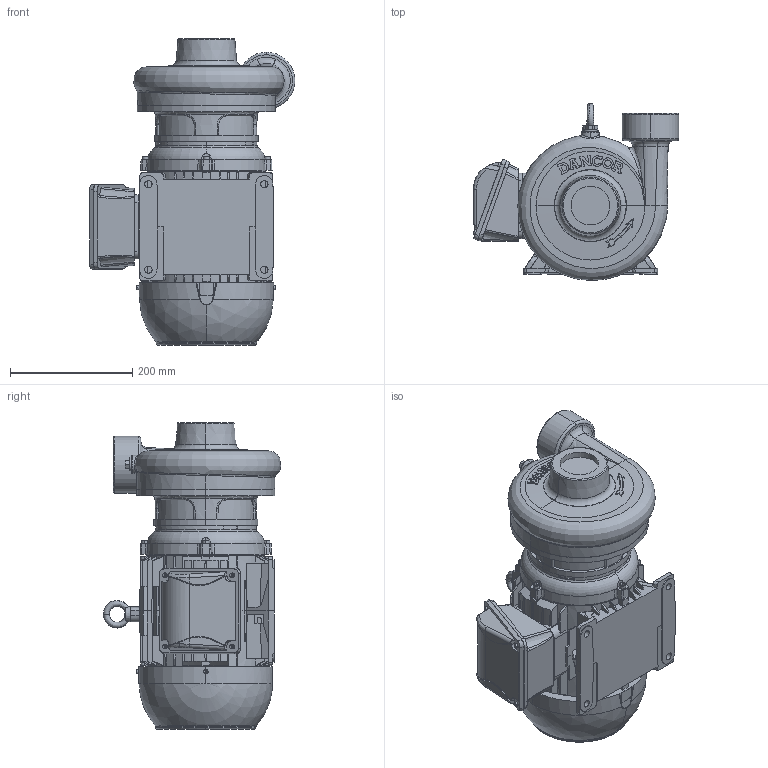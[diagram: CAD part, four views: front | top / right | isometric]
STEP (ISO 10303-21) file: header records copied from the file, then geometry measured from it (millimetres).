
FILE_DESCRIPTION (( 'STEP AP214' ), '1' );
FILE_NAME ('BOMBA 37-40 TJM 2.1-'''' 7,5CV T 4V INC IR3.STEP', '2026-06-09T12:37:03', ( '' ), ( '' ), 'SwSTEP 2.0', 'SolidWorks 2025', '' );
FILE_SCHEMA (( 'AUTOMOTIVE_DESIGN' ));
Length unit declared in the file: millimetre
Products named in the file (12): ARRUELA PLUG DE ESCORVA - 60550167; INTERMEDIARIA 51-30 JM FC 149 FF  (4 A 7,5 CV) _60433122_Interm. 27-50 - 5cv; CARCACA 51-30 2 X 1.12 FF_60389092_CARCAÇA 51-30 2½" X 2½" -; PARAFUSO SEXTAVADO UNC 3-8''''x 5-8'''' AÇO INOX AISI 304 - 60700619; ROTOR 37-40 JM  FF_60508123_60508124_60508125; ARRUELA LISA 10,00mm X 28,00mm X 4,50mm - 60550191; BOMBA 37-40 TJM 2.1-'''' 7,5CV T 4V INC IR3; SELO MECANICO  1.1-4'''' TIPO 01-21 - 60700481; BUCHA DO EIXO JM 25.40MM - 60550192; CHAVETA PARALELA 3-16'''' X 1.9-16'''' AÇO INOX AISI 304 - 60700395; MOTOR TRI 7,5CV IP55 2P 112M_Predeterminada; PLUG DE ESCORVA LATÃO 3-8'''' - 60550166
Assembly tree (11 placements, depth 2):
  BOMBA 37-40 TJM 2.1-'''' 7,5CV T 4V INC IR3
    MOTOR TRI 7,5CV IP55 2P 112M_Predeterminada
    SELO MECANICO  1.1-4'''' TIPO 01-21 - 60700481
    ARRUELA PLUG DE ESCORVA - 60550167
    PLUG DE ESCORVA LATÃO 3-8'''' - 60550166
    ARRUELA LISA 10,00mm X 28,00mm X 4,50mm - 60550191
    BUCHA DO EIXO JM 25.40MM - 60550192
    PARAFUSO SEXTAVADO UNC 3-8''''x 5-8'''' AÇO INOX AISI 304 - 60700619
    CHAVETA PARALELA 3-16'''' X 1.9-16'''' AÇO INOX AISI 304 - 60700395
    INTERMEDIARIA 51-30 JM FC 149 FF  (4 A 7,5 CV) _60433122_Interm. 27-50 - 5cv
    ROTOR 37-40 JM  FF_60508123_60508124_60508125
    CARCACA 51-30 2 X 1.12 FF_60389092_CARCAÇA 51-30 2½" X 2½" -
Bounding box: 337.15 x 290.72 x 502.6 mm (x, y, z)
Volume: 20744583.5 mm3; surface area: 1085290.2 mm2
Topology: 29 solids, 30 shells, 1410 faces, 3645 edges, 2302 vertices
Faces by surface type: plane 761, cylinder 284, cone 154, bspline 153, torus 42, sphere 16
Entity records: 67286 total; most frequent: CARTESIAN_POINT 34209, ORIENTED_EDGE 7264, DIRECTION 6143, EDGE_CURVE 3632, VERTEX_POINT 2302, AXIS2_PLACEMENT_3D 2209, LINE 1725, VECTOR 1725
